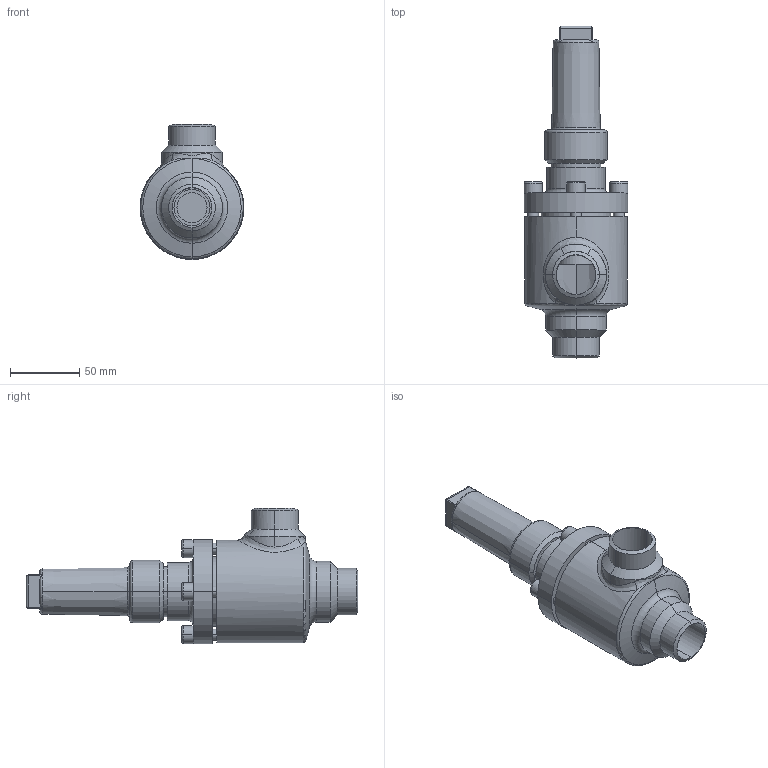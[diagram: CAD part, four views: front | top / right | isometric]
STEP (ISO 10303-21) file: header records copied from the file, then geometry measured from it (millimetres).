
FILE_DESCRIPTION (( 'STEP AP214' ), '1' );
FILE_NAME ('AVB16400D12-DN025_R1_PS40.STEP', '2006-04-27T12:25:06', ( 'Herr Grams' ), ( 'AWP GmbH' ), 'SwSTEP 2.0', 'SolidWorks 2002296', '' );
FILE_SCHEMA (( 'AUTOMOTIVE_DESIGN' ));
Length unit declared in the file: millimetre
Products named in the file (6): AVB16400D12-DN025_R1_PS40; Gehäuse16400-DN025_Standard; AVB16300E13_Deck+Schr-DN25-32_Standard; Deckel16300E13-DN25-32_Standard; Zylinderschraube-DIN912_M 8x 25; Kappe16402_DN010-32_Standard
Assembly tree (8 placements, depth 3):
  AVB16400D12-DN025_R1_PS40
    Gehäuse16400-DN025_Standard
    Kappe16402_DN010-32_Standard
    AVB16300E13_Deck+Schr-DN25-32_Standard
      Zylinderschraube-DIN912_M 8x 25  x4
      Deckel16300E13-DN25-32_Standard
Bounding box: 75 x 239.5 x 97.5 mm (x, y, z)
Volume: 376593.2 mm3; surface area: 91900.3 mm2
Topology: 7 solids, 7 shells, 218 faces, 477 edges, 298 vertices
Faces by surface type: cylinder 87, plane 74, cone 31, torus 23, bspline 3
Entity records: 15092 total; most frequent: CARTESIAN_POINT 10740, DIRECTION 853, ORIENTED_EDGE 726, EDGE_CURVE 363, AXIS2_PLACEMENT_3D 362, VERTEX_POINT 226, EDGE_LOOP 195, CIRCLE 189
